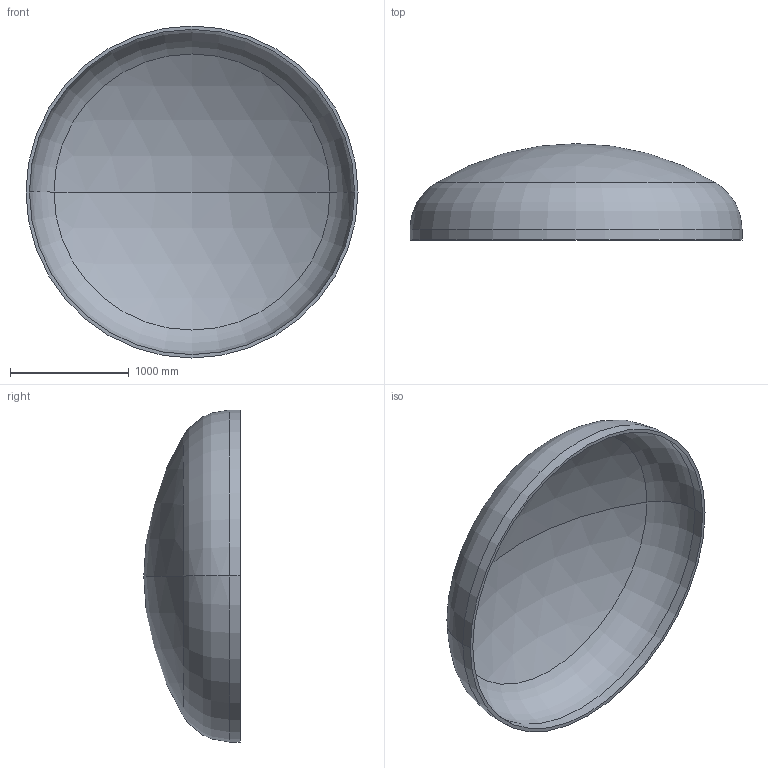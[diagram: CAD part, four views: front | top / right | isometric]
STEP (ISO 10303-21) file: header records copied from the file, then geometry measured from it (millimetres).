
FILE_DESCRIPTION (( 'STEP AP203' ), '1' );
FILE_NAME ('DIN 28013 Korbbogenform_-_Boden DIN 28013 - 2800 x 90 - I - s=29.step', '2016-07-01T16:51:51', ( '' ), ( '' ), 'SwSTEP 2.0', 'SolidWorks 2013', '' );
FILE_SCHEMA (( 'CONFIG_CONTROL_DESIGN' ));
Length unit declared in the file: millimetre
Products named in the file (1): DIN 28013 Korbbogenform_-_Boden DIN 28013 - 2800 x 90 - I - s=29
Bounding box: 2800 x 812.84 x 2800 mm (x, y, z)
Volume: 266537697.4 mm3; surface area: 18636120.1 mm2
Topology: 1 solids, 1 shells, 13 faces, 24 edges, 14 vertices
Faces by surface type: torus 4, cylinder 4, sphere 4, plane 1
Entity records: 407 total; most frequent: DIRECTION 72, CARTESIAN_POINT 52, ORIENTED_EDGE 48, AXIS2_PLACEMENT_3D 34, EDGE_CURVE 24, CIRCLE 20, EDGE_LOOP 14, VERTEX_POINT 14
